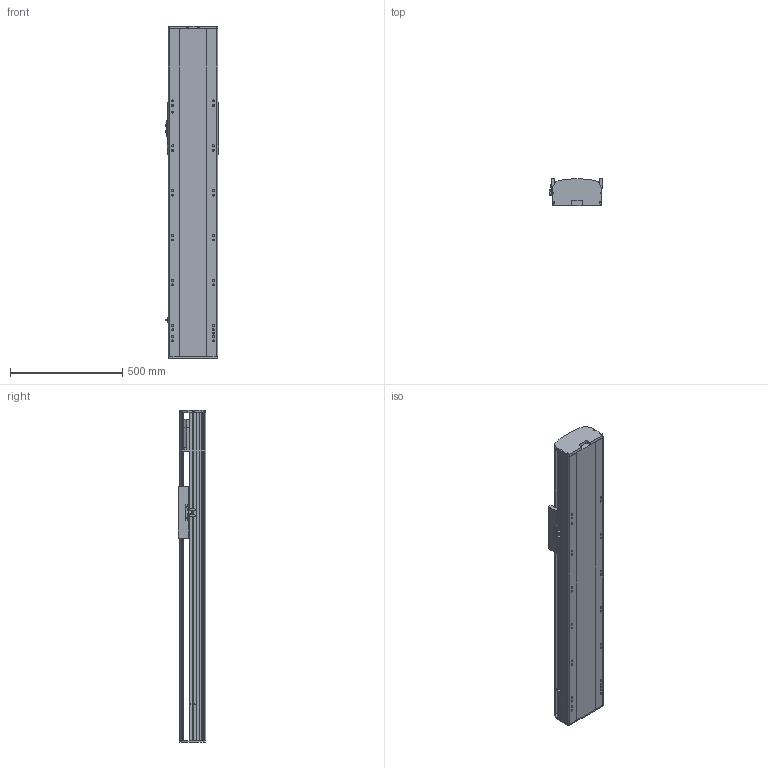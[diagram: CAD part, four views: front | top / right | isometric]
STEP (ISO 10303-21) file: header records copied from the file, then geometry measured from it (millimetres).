
FILE_DESCRIPTION (( 'STEP AP214' ), '1' );
FILE_NAME ('RTH22-XX-850-B-M75B-C4.STEP', '2025-10-24T10:10:33', ( 'Microsoft' ), ( 'Microsoft' ), 'SwSTEP 2.0', 'SolidWorks 2018', '' );
FILE_SCHEMA (( 'AUTOMOTIVE_DESIGN' ));
Length unit declared in the file: millimetre
Products named in the file (9): N_RTH22-B008萇儂啣^RTH22-XX-XX-B-M75B-C4; N_750W萇儂^RTH22-XX-XX-B-M75B-C4; N_RTH22-GY-013外置感应片^RTH22-XX-XX-B-M75B-C4; N_OMRON EE-SX672 传感器^RTH22-XX-XX-B-M75B-C4; N_RTH22-B-007B奻裔^RTH22-XX-XX-B-M75B-C4; N_RTH22-GY-001耜裔^RTH22-XX-XX-B-M75B-C4; RTH22-XX-850-B-M75B-C4; N_RTH22-B-011B菁釱^RTH22-XX-XX-B-M75B-C4; N_RTH22-E-004-SFS25賑釱^RTH22-XX-XX-B-M75B-C4
Assembly tree (10 placements, depth 2):
  RTH22-XX-850-B-M75B-C4
    N_RTH22-B-011B菁釱^RTH22-XX-XX-B-M75B-C4
    N_RTH22-GY-001耜裔^RTH22-XX-XX-B-M75B-C4
    N_750W萇儂^RTH22-XX-XX-B-M75B-C4
    N_RTH22-B008萇儂啣^RTH22-XX-XX-B-M75B-C4
    N_RTH22-B-007B奻裔^RTH22-XX-XX-B-M75B-C4
    N_OMRON EE-SX672 传感器^RTH22-XX-XX-B-M75B-C4  x3
    N_RTH22-GY-013外置感应片^RTH22-XX-XX-B-M75B-C4
    N_RTH22-E-004-SFS25賑釱^RTH22-XX-XX-B-M75B-C4
Bounding box: 238.5 x 122 x 1480 mm (x, y, z)
Volume: 20196740.2 mm3; surface area: 2086764.9 mm2
Topology: 10 solids, 10 shells, 1533 faces, 4200 edges, 2713 vertices
Faces by surface type: plane 754, cylinder 442, bspline 279, cone 58
Entity records: 38091 total; most frequent: CARTESIAN_POINT 11845, ORIENTED_EDGE 5376, DIRECTION 5046, EDGE_CURVE 2688, VERTEX_POINT 1749, AXIS2_PLACEMENT_3D 1698, LINE 1650, VECTOR 1650
